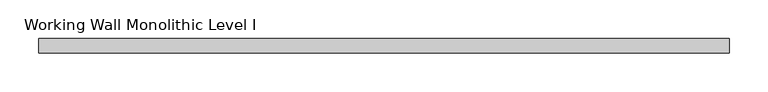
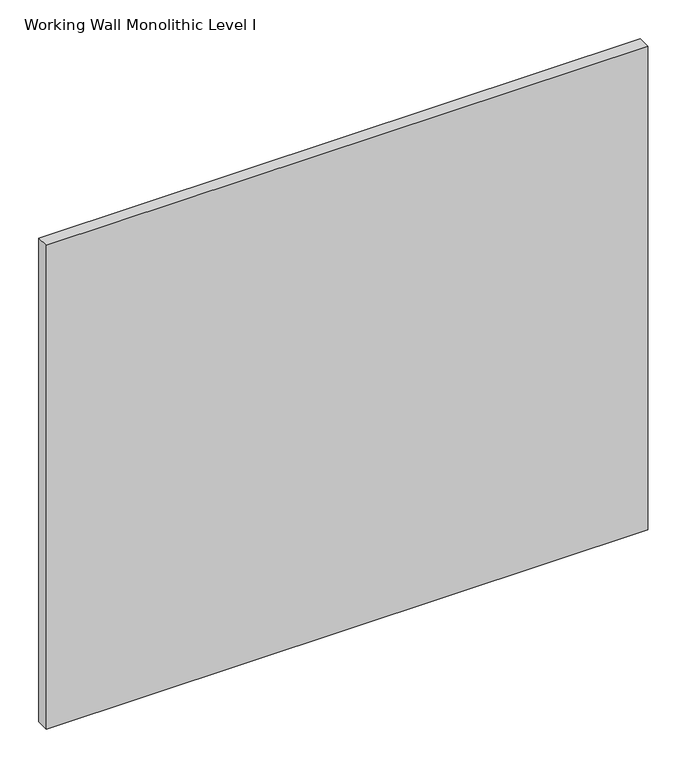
"""IFC4 building model written with IfcOpenShell, lengths in millimetres: proxy geometry, Panel-Fascia-Teknion-Altos : Working Wall Monolithic Level I."""

from ifc_helpers import new_model, si_unit, frame, origin, place, context, project, spatial, polyline, outline, extrude, source, transform, mapped, element, save


def working_wall_monolithic_level_i_0fd3c68e(model_context):
    return source(origin(), model_context, "Body", "SweptSolid", [
        extrude(outline(polyline([(447.0356344, -9.525), (-447.0356344, -9.525), (-447.0356344, 9.525), (447.0356344, 9.525), (447.0356344, -9.525)])), frame((0.0, 0.0, 3.175), z_axis=(0.0, 0.0, 1.0), x_axis=(1.0, 0.0, 0.0)), (0.0, 0.0, 1.0), 759.968),
    ])


if __name__ == "__main__":
    model = new_model("IFC4")
    model_context = context("Model", 3, world=origin())
    ifc_project = project(units=[si_unit("LENGTHUNIT", "METRE", prefix="MILLI")], contexts=[model_context])
    site = spatial("IfcSite", under=ifc_project)
    building = spatial("IfcBuilding", under=site)
    placement = place(None, origin())
    working_wall_monolithic_level_i_shape = working_wall_monolithic_level_i_0fd3c68e(model_context)
    element("IfcBuildingElementProxy", 1, Name="Panel-Fascia-Teknion-Altos : Working Wall Monolithic Level I", ObjectType="Panel-Fascia-Teknion-Altos : Working Wall Monolithic Level I", at=placement, inside=building, context=model_context, shape_type="MappedRepresentation", body=[
        mapped(working_wall_monolithic_level_i_shape, transform((0.0, 0.0, 0.0), x_axis=(1.0, 0.0, 0.0), y_axis=(0.0, 1.0, 0.0), z_axis=(0.0, 0.0, 1.0))),
    ])
    save(model, "model.ifc")
